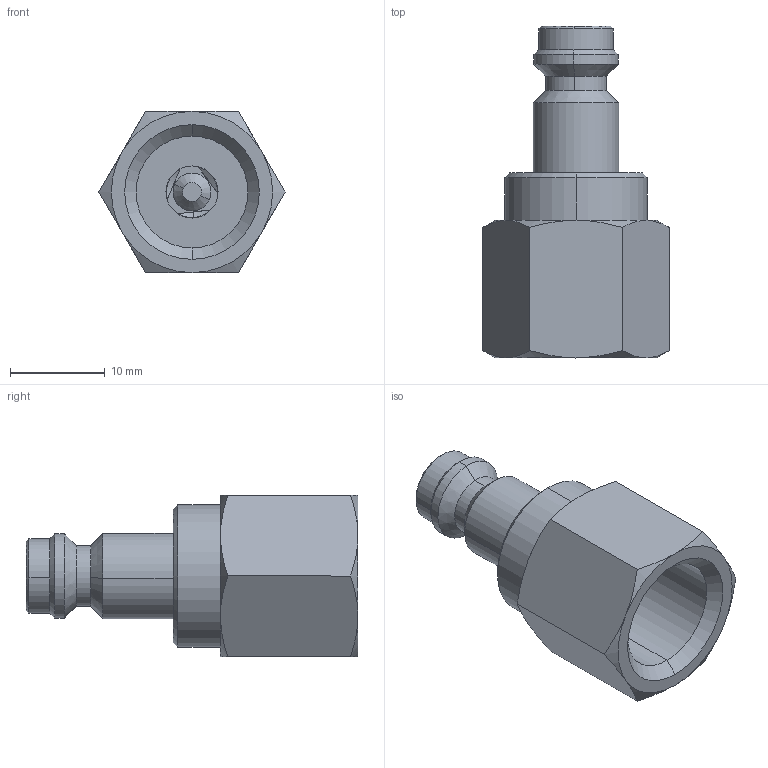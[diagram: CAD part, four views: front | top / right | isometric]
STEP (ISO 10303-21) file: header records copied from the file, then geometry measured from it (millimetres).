
FILE_DESCRIPTION (( 'STEP AP214' ), '1' );
FILE_NAME ('0028200002A.STEP', '2012-11-20T07:16:03', ( '' ), ( '' ), 'SwSTEP 2.0', 'SolidWorks 2012', '' );
FILE_SCHEMA (( 'AUTOMOTIVE_DESIGN' ));
Length unit declared in the file: millimetre
Products named in the file (5): 0028200002A; 00282; 0028000010000-1; A028000010000-1; OR_0002G0021U700 2x1-1
Assembly tree (4 placements, depth 2):
  0028200002A
    00282
    0028000010000-1
    A028000010000-1
    OR_0002G0021U700 2x1-1
Bounding box: 19.63 x 35 x 17 mm (x, y, z)
Volume: 3604.3 mm3; surface area: 3491.4 mm2
Topology: 4 solids, 4 shells, 107 faces, 237 edges, 144 vertices
Faces by surface type: cylinder 40, cone 36, plane 23, bspline 8
Entity records: 3729 total; most frequent: CARTESIAN_POINT 1162, DIRECTION 527, ORIENTED_EDGE 474, EDGE_CURVE 237, AXIS2_PLACEMENT_3D 227, VERTEX_POINT 144, CIRCLE 121, EDGE_LOOP 119
